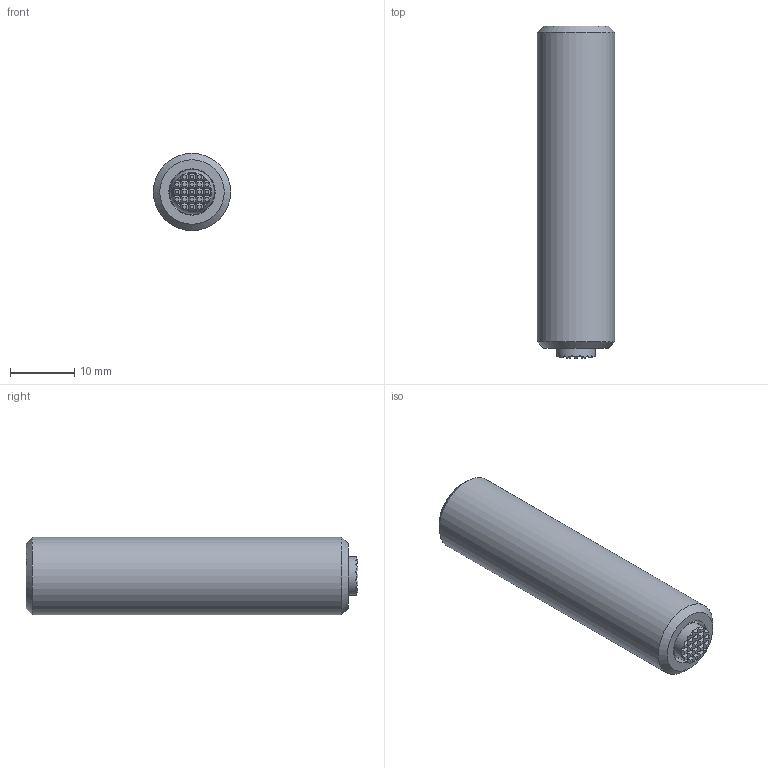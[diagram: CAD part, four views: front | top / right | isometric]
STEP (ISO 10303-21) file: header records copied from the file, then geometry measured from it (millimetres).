
FILE_DESCRIPTION( ( 'STEP AP203' ), '1' );
FILE_NAME( 'C:/Temp/Ganter_Step_05_03_2020/data/3_2/gn_709_8/gn_709_8r/Clamping pad GN 709.8-M12-50-R (0).stp', '2020-03-13T05:38:02', ( 'License CC BY-ND 4.0' ), ( 'CADENAS' ), ' ', 'PARTsolutions', ' ' );
FILE_SCHEMA( ( 'CONFIG_CONTROL_DESIGN' ) );
Length unit declared in the file: millimetre
Products named in the file (3): Clamping pad GN 709.8-M12-50-R (0); _Pendelelement GN 709.8-M12-50-R-1; _Pendelelement GN 709.8-M12-50-R-2
Assembly tree (2 placements, depth 2):
  Clamping pad GN 709.8-M12-50-R (0)
    _Pendelelement GN 709.8-M12-50-R-1
    _Pendelelement GN 709.8-M12-50-R-2
Bounding box: 12 x 51.5 x 12 mm (x, y, z)
Volume: 5410.9 mm3; surface area: 2492.8 mm2
Topology: 2 solids, 2 shells, 162 faces, 347 edges, 190 vertices
Faces by surface type: plane 155, cone 3, cylinder 3, sphere 1
Full cylindrical faces by diameter (mm): 6 x1, 7.18 x1, 12 x1
Entity records: 4242 total; most frequent: DIRECTION 732, CARTESIAN_POINT 692, ORIENTED_EDGE 676, EDGE_CURVE 338, LINE 274, VECTOR 274, AXIS2_PLACEMENT_3D 229, VERTEX_POINT 189
